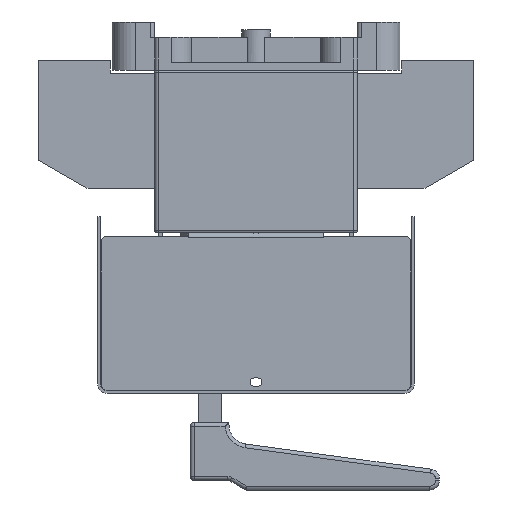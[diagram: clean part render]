
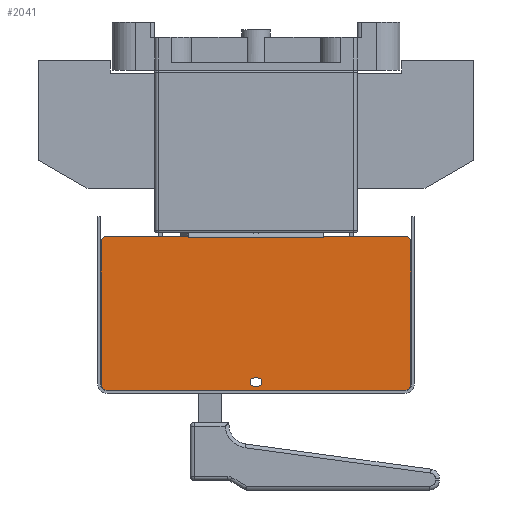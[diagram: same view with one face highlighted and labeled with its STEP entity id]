
A CAD part, left-side view. The second image highlights one B-rep face of the part: STEP entity #2041.
In plain terms, the highlighted planar face has unit normal (-1, 0, 0).
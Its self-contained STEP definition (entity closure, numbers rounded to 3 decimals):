
#2041=ADVANCED_FACE('',(#8444,#8445),#3032,.T.);
#3032=PLANE('',#23175);
#4562=LINE('',#33556,#6975);
#4572=LINE('',#33581,#6985);
#4574=LINE('',#33585,#6987);
#4576=LINE('',#33589,#6989);
#4579=LINE('',#33595,#6992);
#4589=LINE('',#33630,#7002);
#4590=LINE('',#33634,#7003);
#4591=LINE('',#33635,#7004);
#4592=LINE('',#33639,#7005);
#4593=LINE('',#33643,#7006);
#4594=LINE('',#33647,#7007);
#4595=LINE('',#33651,#7008);
#6975=VECTOR('',#27017,1.);
#6985=VECTOR('',#27043,1.);
#6987=VECTOR('',#27047,1.);
#6989=VECTOR('',#27051,1.);
#6992=VECTOR('',#27056,1.);
#7002=VECTOR('',#27084,1.);
#7003=VECTOR('',#27087,1.);
#7004=VECTOR('',#27088,1.);
#7005=VECTOR('',#27091,1.);
#7006=VECTOR('',#27094,1.);
#7007=VECTOR('',#27097,1.);
#7008=VECTOR('',#27100,1.);
#8444=FACE_BOUND('',#9212,.T.);
#8445=FACE_BOUND('',#9213,.T.);
#9212=EDGE_LOOP('',(#12822,#12823,#12824,#12825));
#9213=EDGE_LOOP('',(#12826,#12827,#12828,#12829,#12830,#12831,#12832,#12833,
#12834,#12835,#12836,#12837,#12838,#12839));
#12822=ORIENTED_EDGE('',*,*,#19849,.T.);
#12823=ORIENTED_EDGE('',*,*,#19850,.T.);
#12824=ORIENTED_EDGE('',*,*,#19851,.T.);
#12825=ORIENTED_EDGE('',*,*,#19852,.T.);
#12826=ORIENTED_EDGE('',*,*,#19828,.F.);
#12827=ORIENTED_EDGE('',*,*,#19826,.T.);
#12828=ORIENTED_EDGE('',*,*,#19813,.T.);
#12829=ORIENTED_EDGE('',*,*,#19830,.T.);
#12830=ORIENTED_EDGE('',*,*,#19833,.F.);
#12831=ORIENTED_EDGE('',*,*,#19853,.T.);
#12832=ORIENTED_EDGE('',*,*,#19854,.T.);
#12833=ORIENTED_EDGE('',*,*,#19855,.T.);
#12834=ORIENTED_EDGE('',*,*,#19856,.T.);
#12835=ORIENTED_EDGE('',*,*,#19857,.T.);
#12836=ORIENTED_EDGE('',*,*,#19858,.T.);
#12837=ORIENTED_EDGE('',*,*,#19859,.T.);
#12838=ORIENTED_EDGE('',*,*,#19860,.T.);
#12839=ORIENTED_EDGE('',*,*,#19861,.T.);
#17261=VERTEX_POINT('',#33555);
#17262=VERTEX_POINT('',#33557);
#17267=VERTEX_POINT('',#33578);
#17270=VERTEX_POINT('',#33586);
#17271=VERTEX_POINT('',#33590);
#17273=VERTEX_POINT('',#33596);
#17287=VERTEX_POINT('',#33628);
#17288=VERTEX_POINT('',#33629);
#17289=VERTEX_POINT('',#33631);
#17290=VERTEX_POINT('',#33633);
#17291=VERTEX_POINT('',#33636);
#17292=VERTEX_POINT('',#33638);
#17293=VERTEX_POINT('',#33640);
#17294=VERTEX_POINT('',#33642);
#17295=VERTEX_POINT('',#33644);
#17296=VERTEX_POINT('',#33646);
#17297=VERTEX_POINT('',#33648);
#17298=VERTEX_POINT('',#33650);
#19813=EDGE_CURVE('',#17262,#17261,#4562,.T.);
#19826=EDGE_CURVE('',#17267,#17262,#4572,.T.);
#19828=EDGE_CURVE('',#17267,#17270,#4574,.T.);
#19830=EDGE_CURVE('',#17261,#17271,#4576,.T.);
#19833=EDGE_CURVE('',#17273,#17271,#4579,.T.);
#19849=EDGE_CURVE('',#17287,#17288,#21868,.T.);
#19850=EDGE_CURVE('',#17288,#17289,#4589,.T.);
#19851=EDGE_CURVE('',#17289,#17290,#21869,.T.);
#19852=EDGE_CURVE('',#17290,#17287,#4590,.T.);
#19853=EDGE_CURVE('',#17273,#17291,#4591,.T.);
#19854=EDGE_CURVE('',#17291,#17292,#21870,.T.);
#19855=EDGE_CURVE('',#17292,#17293,#4592,.T.);
#19856=EDGE_CURVE('',#17293,#17294,#21871,.T.);
#19857=EDGE_CURVE('',#17294,#17295,#4593,.T.);
#19858=EDGE_CURVE('',#17295,#17296,#21872,.T.);
#19859=EDGE_CURVE('',#17296,#17297,#4594,.T.);
#19860=EDGE_CURVE('',#17297,#17298,#21873,.T.);
#19861=EDGE_CURVE('',#17298,#17270,#4595,.T.);
#21868=CIRCLE('',#23169,2.1);
#21869=CIRCLE('',#23170,2.1);
#21870=CIRCLE('',#23171,3.);
#21871=CIRCLE('',#23172,3.);
#21872=CIRCLE('',#23173,3.);
#21873=CIRCLE('',#23174,3.);
#23169=AXIS2_PLACEMENT_3D('',#33627,#27082,#27083);
#23170=AXIS2_PLACEMENT_3D('',#33632,#27085,#27086);
#23171=AXIS2_PLACEMENT_3D('',#33637,#27089,#27090);
#23172=AXIS2_PLACEMENT_3D('',#33641,#27092,#27093);
#23173=AXIS2_PLACEMENT_3D('',#33645,#27095,#27096);
#23174=AXIS2_PLACEMENT_3D('',#33649,#27098,#27099);
#23175=AXIS2_PLACEMENT_3D('',#33652,#27101,#27102);
#27017=DIRECTION('',(0.,1.,0.));
#27043=DIRECTION('',(0.,1.,0.));
#27047=DIRECTION('',(0.,0.,1.));
#27051=DIRECTION('',(0.,1.,0.));
#27056=DIRECTION('',(0.,0.,-1.));
#27082=DIRECTION('',(1.,0.,0.));
#27083=DIRECTION('',(0.,1.,0.));
#27084=DIRECTION('',(0.,-1.,0.));
#27085=DIRECTION('',(1.,0.,0.));
#27086=DIRECTION('',(0.,1.,0.));
#27087=DIRECTION('',(0.,1.,0.));
#27088=DIRECTION('',(0.,1.,0.));
#27089=DIRECTION('',(-1.,0.,0.));
#27090=DIRECTION('',(0.,1.,0.));
#27091=DIRECTION('',(0.,0.,-1.));
#27092=DIRECTION('',(-1.,0.,0.));
#27093=DIRECTION('',(0.,1.,0.));
#27094=DIRECTION('',(0.,-1.,0.));
#27095=DIRECTION('',(-1.,0.,0.));
#27096=DIRECTION('',(0.,1.,0.));
#27097=DIRECTION('',(0.,0.,1.));
#27098=DIRECTION('',(-1.,0.,0.));
#27099=DIRECTION('',(0.,1.,0.));
#27100=DIRECTION('',(0.,1.,0.));
#27101=DIRECTION('',(-1.,0.,0.));
#27102=DIRECTION('',(0.,-1.,0.));
#33555=CARTESIAN_POINT('',(-189.3,35.,-86.8));
#33556=CARTESIAN_POINT('',(-189.3,50.5,-86.8));
#33557=CARTESIAN_POINT('',(-189.3,-35.,-86.8));
#33578=CARTESIAN_POINT('',(-189.3,-35.002,-86.8));
#33581=CARTESIAN_POINT('',(-189.3,77.,-86.8));
#33585=CARTESIAN_POINT('',(-189.3,-35.002,-162.8));
#33586=CARTESIAN_POINT('',(-189.3,-35.002,-85.8));
#33589=CARTESIAN_POINT('',(-189.3,77.,-86.8));
#33590=CARTESIAN_POINT('',(-189.3,35.002,-86.8));
#33595=CARTESIAN_POINT('',(-189.3,35.002,-162.8));
#33596=CARTESIAN_POINT('',(-189.3,35.002,-85.8));
#33627=CARTESIAN_POINT('',(-189.3,1.,-161.4));
#33628=CARTESIAN_POINT('',(-189.3,1.,-163.5));
#33629=CARTESIAN_POINT('',(-189.3,1.,-159.3));
#33630=CARTESIAN_POINT('',(-189.3,1.,-159.3));
#33631=CARTESIAN_POINT('',(-189.3,-1.,-159.3));
#33632=CARTESIAN_POINT('',(-189.3,-1.,-161.4));
#33633=CARTESIAN_POINT('',(-189.3,-1.,-163.5));
#33634=CARTESIAN_POINT('',(-189.3,-1.,-163.5));
#33635=CARTESIAN_POINT('',(-189.3,-77.,-85.8));
#33636=CARTESIAN_POINT('',(-189.3,77.,-85.8));
#33637=CARTESIAN_POINT('',(-189.3,77.,-88.8));
#33638=CARTESIAN_POINT('',(-189.3,80.,-88.8));
#33639=CARTESIAN_POINT('',(-189.3,80.,-88.8));
#33640=CARTESIAN_POINT('',(-189.3,80.,-162.8));
#33641=CARTESIAN_POINT('',(-189.3,77.,-162.8));
#33642=CARTESIAN_POINT('',(-189.3,77.,-165.8));
#33643=CARTESIAN_POINT('',(-189.3,77.,-165.8));
#33644=CARTESIAN_POINT('',(-189.3,-77.,-165.8));
#33645=CARTESIAN_POINT('',(-189.3,-77.,-162.8));
#33646=CARTESIAN_POINT('',(-189.3,-80.,-162.8));
#33647=CARTESIAN_POINT('',(-189.3,-80.,-162.8));
#33648=CARTESIAN_POINT('',(-189.3,-80.,-88.8));
#33649=CARTESIAN_POINT('',(-189.3,-77.,-88.8));
#33650=CARTESIAN_POINT('',(-189.3,-77.,-85.8));
#33651=CARTESIAN_POINT('',(-189.3,-77.,-85.8));
#33652=CARTESIAN_POINT('',(-189.3,77.,-162.8));
